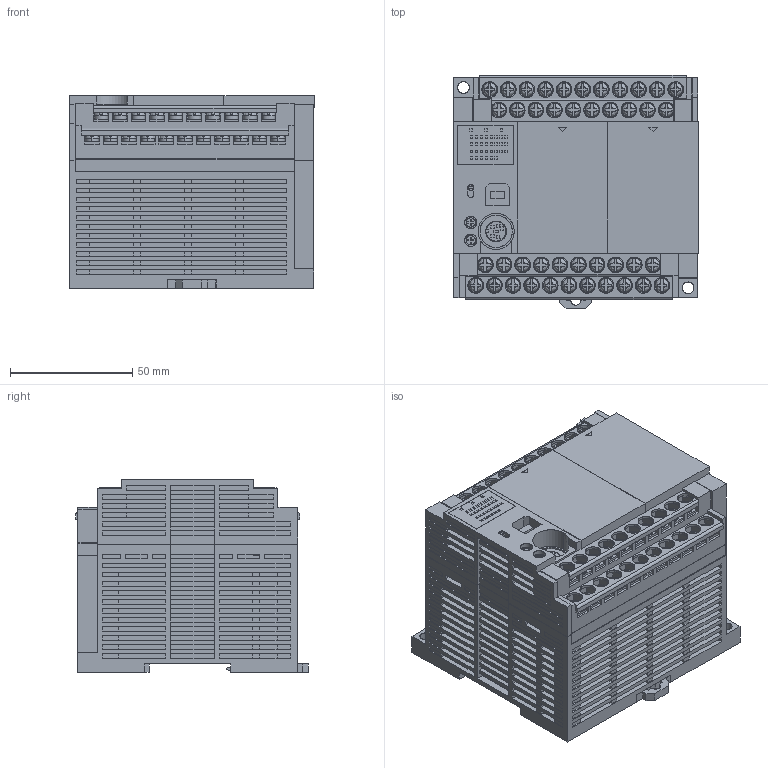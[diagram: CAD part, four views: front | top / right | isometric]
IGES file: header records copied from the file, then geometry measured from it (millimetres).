
Global section: preprocessor: SolidWorks 2008; organization: PanasonicElectricWorks; date: 090828.104628; units: millimetre
Bounding box: 100.2 x 95.4 x 79 mm (x, y, z)
Surface area: 100086.6 mm2 (no closed solid volume)
Topology: 0 solids, 0 shells, 3137 faces, 24692 edges, 24692 vertices
Faces by surface type: bspline 2889, revolution 248
